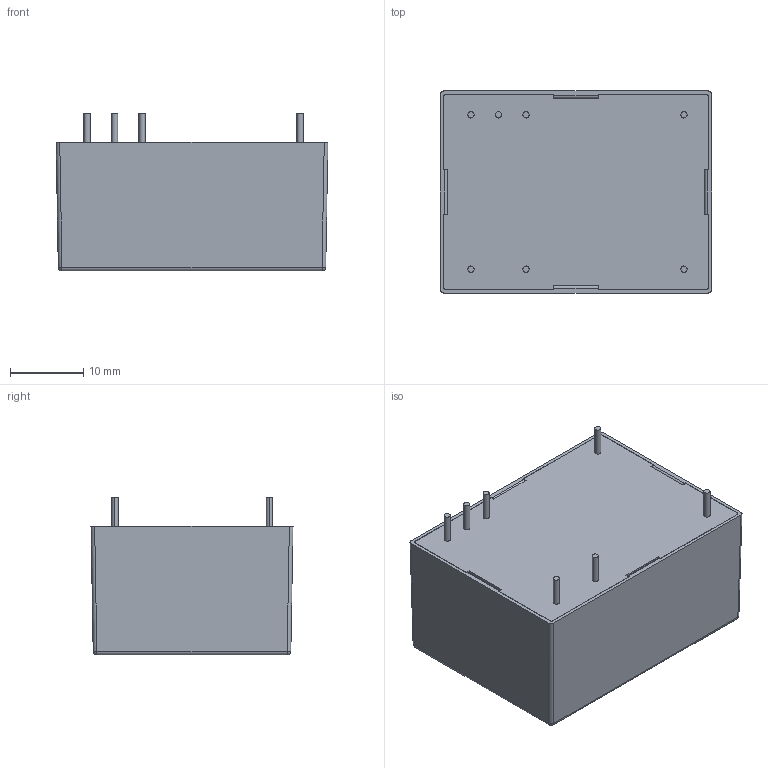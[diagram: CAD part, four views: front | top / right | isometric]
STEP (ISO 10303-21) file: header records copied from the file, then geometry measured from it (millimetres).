
FILE_DESCRIPTION (( 'STEP AP214' ), '1' );
FILE_NAME ('TMLM04单组.STEP', '2012-06-28T01:11:13', ( '微软用户' ), ( '微软中国' ), 'SwSTEP 2.0', 'SolidWorks 2010', '' );
FILE_SCHEMA (( 'AUTOMOTIVE_DESIGN' ));
Length unit declared in the file: millimetre
Products named in the file (4): TMLM04_single; TMLM04B; TMLM04T
Assembly tree (3 placements, depth 2):
  TMLM04_single
    TMLM04_single
    TMLM04T
    TMLM04B
Bounding box: 37 x 27.5 x 21.5 mm (x, y, z)
Volume: 4290.8 mm3; surface area: 10082 mm2
Topology: 3 solids, 3 shells, 1392 faces, 3673 edges, 2440 vertices
Faces by surface type: plane 886, bspline 406, cylinder 82, cone 14, sphere 4
Entity records: 92685 total; most frequent: CARTESIAN_POINT 46961, ORIENTED_EDGE 7346, DIRECTION 5015, EDGE_CURVE 3673, LINE 2683, VECTOR 2683, VERTEX_POINT 2440, EDGE_LOOP 1559
